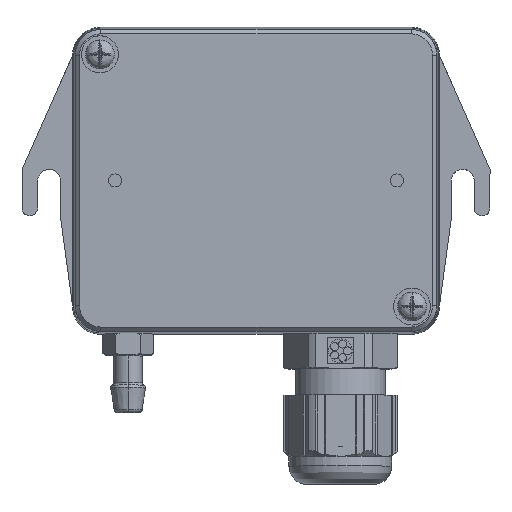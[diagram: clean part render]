
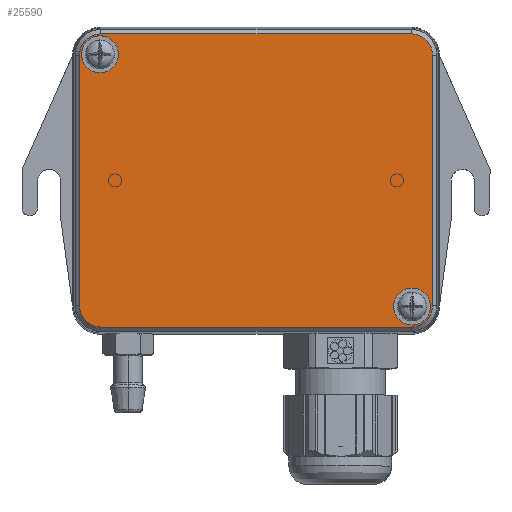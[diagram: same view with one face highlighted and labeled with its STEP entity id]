
A CAD part, top view. The second image highlights one B-rep face of the part: STEP entity #25590.
In plain terms, the highlighted planar face has unit normal (0, 0, 1).
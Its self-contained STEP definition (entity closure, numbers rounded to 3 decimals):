
#626 = DIRECTION ( 'NONE',  ( 0., 1., 0. ) ) ;
#697 = AXIS2_PLACEMENT_3D ( 'NONE', #5189, #15079, #25130 ) ;
#1156 = CIRCLE ( 'NONE', #5914, 3.938 ) ;
#2436 = CARTESIAN_POINT ( 'NONE',  ( 25.107, -23.034, 7.571 ) ) ;
#2557 = CIRCLE ( 'NONE', #10998, 3.938 ) ;
#2818 = DIRECTION ( 'NONE',  ( -1., 0., 0. ) ) ;
#3050 = DIRECTION ( 'NONE',  ( 0., 0., 1. ) ) ;
#3057 = LINE ( 'NONE', #15736, #12250 ) ;
#3340 = CIRCLE ( 'NONE', #697, 3.938 ) ;
#3857 = FACE_OUTER_BOUND ( 'NONE', #32595, .T. ) ;
#4175 = DIRECTION ( 'NONE',  ( 0., -1., 0. ) ) ;
#4180 = EDGE_CURVE ( 'NONE', #12067, #7043, #24967, .T. ) ;
#5035 = VERTEX_POINT ( 'NONE', #5626 ) ;
#5189 = CARTESIAN_POINT ( 'NONE',  ( -28.666, 23.139, 7.571 ) ) ;
#5227 = EDGE_CURVE ( 'NONE', #13527, #28292, #12004, .T. ) ;
#5626 = CARTESIAN_POINT ( 'NONE',  ( 31.907, -23.034, 7.571 ) ) ;
#5660 = EDGE_CURVE ( 'NONE', #6900, #22683, #3340, .T. ) ;
#5661 = DIRECTION ( 'NONE',  ( -1., 0., 0. ) ) ;
#5741 = ORIENTED_EDGE ( 'NONE', *, *, #28909, .T. ) ;
#5819 = CARTESIAN_POINT ( 'NONE',  ( 28.332, 23.139, 7.571 ) ) ;
#5822 = FACE_BOUND ( 'NONE', #8542, .T. ) ;
#5831 = EDGE_CURVE ( 'NONE', #7043, #12067, #8606, .T. ) ;
#5914 = AXIS2_PLACEMENT_3D ( 'NONE', #5819, #15702, #5661 ) ;
#6246 = AXIS2_PLACEMENT_3D ( 'NONE', #9010, #29479, #6864 ) ;
#6864 = DIRECTION ( 'NONE',  ( -1., 0., 0. ) ) ;
#6900 = VERTEX_POINT ( 'NONE', #22447 ) ;
#7043 = VERTEX_POINT ( 'NONE', #12727 ) ;
#7078 = ORIENTED_EDGE ( 'NONE', *, *, #5660, .T. ) ;
#7270 = CARTESIAN_POINT ( 'NONE',  ( -32.604, 23.139, 7.571 ) ) ;
#7537 = ORIENTED_EDGE ( 'NONE', *, *, #28147, .T. ) ;
#7598 = DIRECTION ( 'NONE',  ( 0., 0., -1. ) ) ;
#8196 = DIRECTION ( 'NONE',  ( -1., 0., 0. ) ) ;
#8542 = EDGE_LOOP ( 'NONE', ( #5741, #9387 ) ) ;
#8606 = CIRCLE ( 'NONE', #10748, 3.4 ) ;
#8636 = PLANE ( 'NONE',  #24879 ) ;
#8666 = ORIENTED_EDGE ( 'NONE', *, *, #4180, .T. ) ;
#8841 = CARTESIAN_POINT ( 'NONE',  ( -32.604, -22.859, 7.571 ) ) ;
#9010 = CARTESIAN_POINT ( 'NONE',  ( 28.507, -23.034, 7.571 ) ) ;
#9365 = VERTEX_POINT ( 'NONE', #11872 ) ;
#9387 = ORIENTED_EDGE ( 'NONE', *, *, #26340, .T. ) ;
#10146 = VECTOR ( 'NONE', #626, 1000. ) ;
#10748 = AXIS2_PLACEMENT_3D ( 'NONE', #27783, #31248, #16347 ) ;
#10998 = AXIS2_PLACEMENT_3D ( 'NONE', #30489, #13147, #8196 ) ;
#11052 = VECTOR ( 'NONE', #4175, 1000. ) ;
#11188 = CARTESIAN_POINT ( 'NONE',  ( 32.27, 0.14, 7.571 ) ) ;
#11241 = EDGE_CURVE ( 'NONE', #16248, #17245, #13985, .T. ) ;
#11337 = DIRECTION ( 'NONE',  ( 0., 0., -1. ) ) ;
#11566 = EDGE_CURVE ( 'NONE', #9365, #6900, #3057, .T. ) ;
#11600 = LINE ( 'NONE', #18673, #11052 ) ;
#11872 = CARTESIAN_POINT ( 'NONE',  ( 28.332, 27.078, 7.571 ) ) ;
#12004 = LINE ( 'NONE', #22036, #15433 ) ;
#12067 = VERTEX_POINT ( 'NONE', #27797 ) ;
#12208 = CIRCLE ( 'NONE', #28537, 3.938 ) ;
#12250 = VECTOR ( 'NONE', #18701, 1000. ) ;
#12575 = CARTESIAN_POINT ( 'NONE',  ( 28.332, -26.798, 7.571 ) ) ;
#12727 = CARTESIAN_POINT ( 'NONE',  ( -32.241, 23.314, 7.571 ) ) ;
#12771 = ORIENTED_EDGE ( 'NONE', *, *, #17730, .T. ) ;
#13147 = DIRECTION ( 'NONE',  ( 0., 0., 1. ) ) ;
#13280 = CARTESIAN_POINT ( 'NONE',  ( 32.27, 23.139, 7.571 ) ) ;
#13527 = VERTEX_POINT ( 'NONE', #17120 ) ;
#13570 = DIRECTION ( 'NONE',  ( 1., 0., 0. ) ) ;
#13985 = LINE ( 'NONE', #11188, #10146 ) ;
#15079 = DIRECTION ( 'NONE',  ( 0., 0., 1. ) ) ;
#15433 = VECTOR ( 'NONE', #17107, 1000. ) ;
#15702 = DIRECTION ( 'NONE',  ( 0., 0., 1. ) ) ;
#15721 = CIRCLE ( 'NONE', #6246, 3.4 ) ;
#15723 = CARTESIAN_POINT ( 'NONE',  ( 32.27, -22.859, 7.571 ) ) ;
#15736 = CARTESIAN_POINT ( 'NONE',  ( -0.167, 27.078, 7.571 ) ) ;
#15944 = ORIENTED_EDGE ( 'NONE', *, *, #11241, .T. ) ;
#16248 = VERTEX_POINT ( 'NONE', #15723 ) ;
#16347 = DIRECTION ( 'NONE',  ( -1., 0., 0. ) ) ;
#17107 = DIRECTION ( 'NONE',  ( 1., 0., 0. ) ) ;
#17120 = CARTESIAN_POINT ( 'NONE',  ( -28.666, -26.798, 7.571 ) ) ;
#17144 = EDGE_CURVE ( 'NONE', #20398, #13527, #12208, .T. ) ;
#17245 = VERTEX_POINT ( 'NONE', #13280 ) ;
#17730 = EDGE_CURVE ( 'NONE', #17245, #9365, #1156, .T. ) ;
#18109 = AXIS2_PLACEMENT_3D ( 'NONE', #29875, #7598, #2818 ) ;
#18673 = CARTESIAN_POINT ( 'NONE',  ( -32.604, 0.14, 7.571 ) ) ;
#18701 = DIRECTION ( 'NONE',  ( -1., 0., 0. ) ) ;
#20398 = VERTEX_POINT ( 'NONE', #8841 ) ;
#20815 = DIRECTION ( 'NONE',  ( 0., 0., 1. ) ) ;
#21077 = VERTEX_POINT ( 'NONE', #2436 ) ;
#21185 = AXIS2_PLACEMENT_3D ( 'NONE', #29157, #11337, #28968 ) ;
#22036 = CARTESIAN_POINT ( 'NONE',  ( -0.167, -26.798, 7.571 ) ) ;
#22080 = EDGE_CURVE ( 'NONE', #28292, #16248, #2557, .T. ) ;
#22447 = CARTESIAN_POINT ( 'NONE',  ( -28.666, 27.078, 7.571 ) ) ;
#22683 = VERTEX_POINT ( 'NONE', #7270 ) ;
#23160 = DIRECTION ( 'NONE',  ( -1., 0., 0. ) ) ;
#23340 = CARTESIAN_POINT ( 'NONE',  ( -28.666, -22.859, 7.571 ) ) ;
#23834 = CIRCLE ( 'NONE', #21185, 3.4 ) ;
#24879 = AXIS2_PLACEMENT_3D ( 'NONE', #28597, #20815, #13570 ) ;
#24898 = ORIENTED_EDGE ( 'NONE', *, *, #11566, .T. ) ;
#24967 = CIRCLE ( 'NONE', #18109, 3.4 ) ;
#25130 = DIRECTION ( 'NONE',  ( -1., 0., 0. ) ) ;
#25504 = ORIENTED_EDGE ( 'NONE', *, *, #17144, .T. ) ;
#25590 = ADVANCED_FACE ( 'NONE', ( #26268, #5822, #3857 ), #8636, .T. ) ;
#26268 = FACE_BOUND ( 'NONE', #30514, .T. ) ;
#26340 = EDGE_CURVE ( 'NONE', #5035, #21077, #23834, .T. ) ;
#27004 = ORIENTED_EDGE ( 'NONE', *, *, #5227, .T. ) ;
#27686 = ORIENTED_EDGE ( 'NONE', *, *, #5831, .T. ) ;
#27783 = CARTESIAN_POINT ( 'NONE',  ( -28.841, 23.314, 7.571 ) ) ;
#27797 = CARTESIAN_POINT ( 'NONE',  ( -25.441, 23.314, 7.571 ) ) ;
#28147 = EDGE_CURVE ( 'NONE', #22683, #20398, #11600, .T. ) ;
#28292 = VERTEX_POINT ( 'NONE', #12575 ) ;
#28537 = AXIS2_PLACEMENT_3D ( 'NONE', #23340, #3050, #23160 ) ;
#28597 = CARTESIAN_POINT ( 'NONE',  ( -0.167, 0.14, 7.571 ) ) ;
#28909 = EDGE_CURVE ( 'NONE', #21077, #5035, #15721, .T. ) ;
#28968 = DIRECTION ( 'NONE',  ( -1., 0., 0. ) ) ;
#29157 = CARTESIAN_POINT ( 'NONE',  ( 28.507, -23.034, 7.571 ) ) ;
#29479 = DIRECTION ( 'NONE',  ( 0., 0., -1. ) ) ;
#29875 = CARTESIAN_POINT ( 'NONE',  ( -28.841, 23.314, 7.571 ) ) ;
#30089 = ORIENTED_EDGE ( 'NONE', *, *, #22080, .T. ) ;
#30489 = CARTESIAN_POINT ( 'NONE',  ( 28.332, -22.859, 7.571 ) ) ;
#30514 = EDGE_LOOP ( 'NONE', ( #27686, #8666 ) ) ;
#31248 = DIRECTION ( 'NONE',  ( 0., 0., -1. ) ) ;
#32595 = EDGE_LOOP ( 'NONE', ( #15944, #12771, #24898, #7078, #7537, #25504, #27004, #30089 ) ) ;
